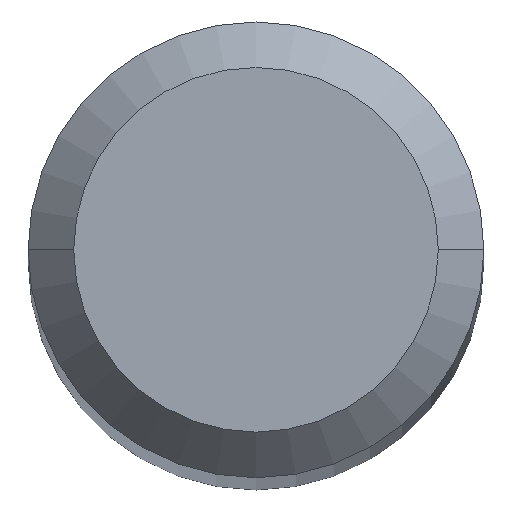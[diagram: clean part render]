
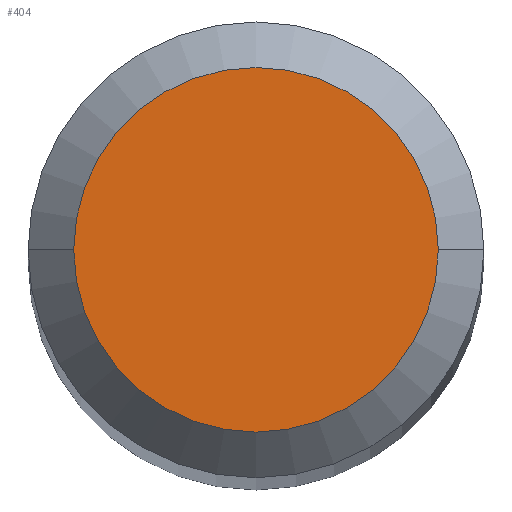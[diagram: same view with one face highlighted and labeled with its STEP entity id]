
A CAD part, top view. The second image highlights one B-rep face of the part: STEP entity #404.
In plain terms, the highlighted planar face has unit normal (0, 0, 1).
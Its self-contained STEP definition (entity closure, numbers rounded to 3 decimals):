
#4 = ORIENTED_EDGE ( 'NONE', *, *, #533, .F. ) ;
#21 = DIRECTION ( 'NONE',  ( 0., 0., -1. ) ) ;
#32 = DIRECTION ( 'NONE',  ( 0., 0., 1. ) ) ;
#39 = FACE_OUTER_BOUND ( 'NONE', #514, .T. ) ;
#60 = VERTEX_POINT ( 'NONE', #97 ) ;
#91 = DIRECTION ( 'NONE',  ( 1., 0., 0. ) ) ;
#92 = DIRECTION ( 'NONE',  ( -1., 0., 0. ) ) ;
#97 = CARTESIAN_POINT ( 'NONE',  ( 1.2, 0., 0. ) ) ;
#109 = AXIS2_PLACEMENT_3D ( 'NONE', #599, #21, #458 ) ;
#122 = CARTESIAN_POINT ( 'NONE',  ( -1.2, 0., 0. ) ) ;
#161 = EDGE_CURVE ( 'NONE', #60, #584, #332, .T. ) ;
#185 = CARTESIAN_POINT ( 'NONE',  ( 0., 0., 0. ) ) ;
#187 = PLANE ( 'NONE',  #474 ) ;
#332 = CIRCLE ( 'NONE', #551, 1.2 ) ;
#373 = DIRECTION ( 'NONE',  ( 0., 0., -1. ) ) ;
#404 = ADVANCED_FACE ( 'NONE', ( #39 ), #187, .T. ) ;
#458 = DIRECTION ( 'NONE',  ( -1., 0., 0. ) ) ;
#474 = AXIS2_PLACEMENT_3D ( 'NONE', #610, #32, #91 ) ;
#477 = ORIENTED_EDGE ( 'NONE', *, *, #161, .F. ) ;
#514 = EDGE_LOOP ( 'NONE', ( #4, #477 ) ) ;
#533 = EDGE_CURVE ( 'NONE', #584, #60, #574, .T. ) ;
#551 = AXIS2_PLACEMENT_3D ( 'NONE', #185, #373, #92 ) ;
#574 = CIRCLE ( 'NONE', #109, 1.2 ) ;
#584 = VERTEX_POINT ( 'NONE', #122 ) ;
#599 = CARTESIAN_POINT ( 'NONE',  ( 0., 0., 0. ) ) ;
#610 = CARTESIAN_POINT ( 'NONE',  ( 0., 1.2, 0. ) ) ;
